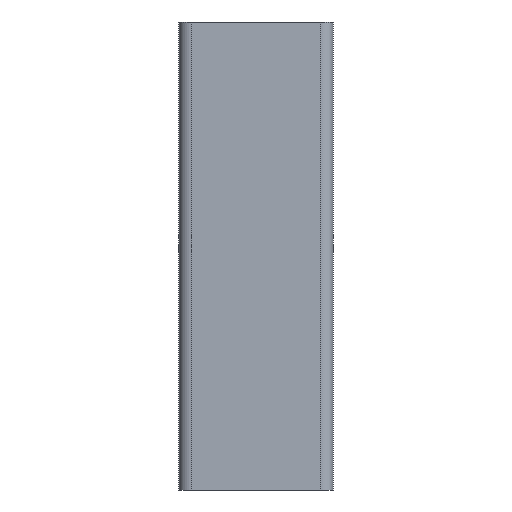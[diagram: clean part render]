
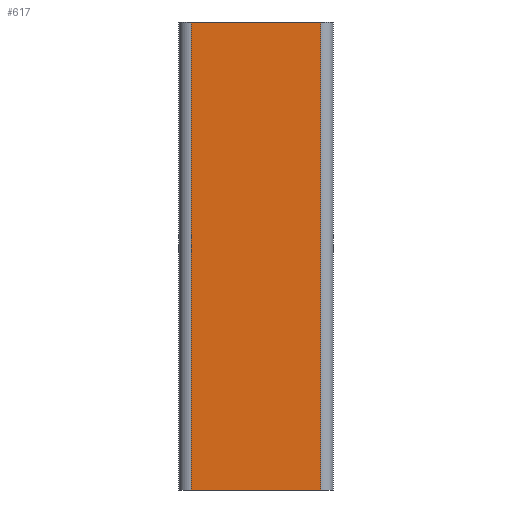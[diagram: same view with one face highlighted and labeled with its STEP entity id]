
A CAD part, front view. The second image highlights one B-rep face of the part: STEP entity #617.
In plain terms, the highlighted planar face has unit normal (0, -1, 0).
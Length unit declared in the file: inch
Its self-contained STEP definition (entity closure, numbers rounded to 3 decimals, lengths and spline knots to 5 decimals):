
#27 = EDGE_CURVE ( 'NONE', #290, #89, #146, .T. ) ;
#40 = EDGE_CURVE ( 'NONE', #89, #93, #174, .T. ) ;
#65 = DIRECTION ( 'NONE',  ( 0., 0., -1. ) ) ;
#82 = CARTESIAN_POINT ( 'NONE',  ( -0.83095, -0.9872, 3. ) ) ;
#89 = VERTEX_POINT ( 'NONE', #354 ) ;
#93 = VERTEX_POINT ( 'NONE', #357 ) ;
#103 = EDGE_CURVE ( 'NONE', #276, #93, #411, .T. ) ;
#104 = EDGE_CURVE ( 'NONE', #290, #276, #416, .T. ) ;
#131 = ORIENTED_EDGE ( 'NONE', *, *, #40, .T. ) ;
#137 = ORIENTED_EDGE ( 'NONE', *, *, #27, .T. ) ;
#139 = ORIENTED_EDGE ( 'NONE', *, *, #104, .F. ) ;
#146 = LINE ( 'NONE', #82, #151 ) ;
#151 = VECTOR ( 'NONE', #65, 39.37008 ) ;
#174 = LINE ( 'NONE', #300, #175 ) ;
#175 = VECTOR ( 'NONE', #301, 39.37008 ) ;
#223 = EDGE_LOOP ( 'NONE', ( #131, #263, #139, #137 ) ) ;
#263 = ORIENTED_EDGE ( 'NONE', *, *, #103, .F. ) ;
#276 = VERTEX_POINT ( 'NONE', #486 ) ;
#290 = VERTEX_POINT ( 'NONE', #503 ) ;
#300 = CARTESIAN_POINT ( 'NONE',  ( -0.83095, -0.9872, -3. ) ) ;
#301 = DIRECTION ( 'NONE',  ( 1., 0., 0. ) ) ;
#354 = CARTESIAN_POINT ( 'NONE',  ( -0.83095, -0.9872, -3. ) ) ;
#357 = CARTESIAN_POINT ( 'NONE',  ( 0.83095, -0.9872, -3. ) ) ;
#368 = CARTESIAN_POINT ( 'NONE',  ( 0.83095, -0.9872, 3. ) ) ;
#369 = DIRECTION ( 'NONE',  ( 0., 0., -1. ) ) ;
#394 = AXIS2_PLACEMENT_3D ( 'NONE', #534, #540, #541 ) ;
#411 = LINE ( 'NONE', #368, #412 ) ;
#412 = VECTOR ( 'NONE', #369, 39.37008 ) ;
#416 = LINE ( 'NONE', #462, #417 ) ;
#417 = VECTOR ( 'NONE', #463, 39.37008 ) ;
#446 = FACE_OUTER_BOUND ( 'NONE', #223, .T. ) ;
#462 = CARTESIAN_POINT ( 'NONE',  ( -0.83095, -0.9872, 3. ) ) ;
#463 = DIRECTION ( 'NONE',  ( 1., 0., 0. ) ) ;
#486 = CARTESIAN_POINT ( 'NONE',  ( 0.83095, -0.9872, 3. ) ) ;
#503 = CARTESIAN_POINT ( 'NONE',  ( -0.83095, -0.9872, 3. ) ) ;
#531 = PLANE ( 'NONE',  #394 ) ;
#534 = CARTESIAN_POINT ( 'NONE',  ( -0.83095, -0.9872, 3. ) ) ;
#540 = DIRECTION ( 'NONE',  ( 0., 1., 0. ) ) ;
#541 = DIRECTION ( 'NONE',  ( -1., 0., 0. ) ) ;
#617 = ADVANCED_FACE ( 'NONE', ( #446 ), #531, .F. ) ;
